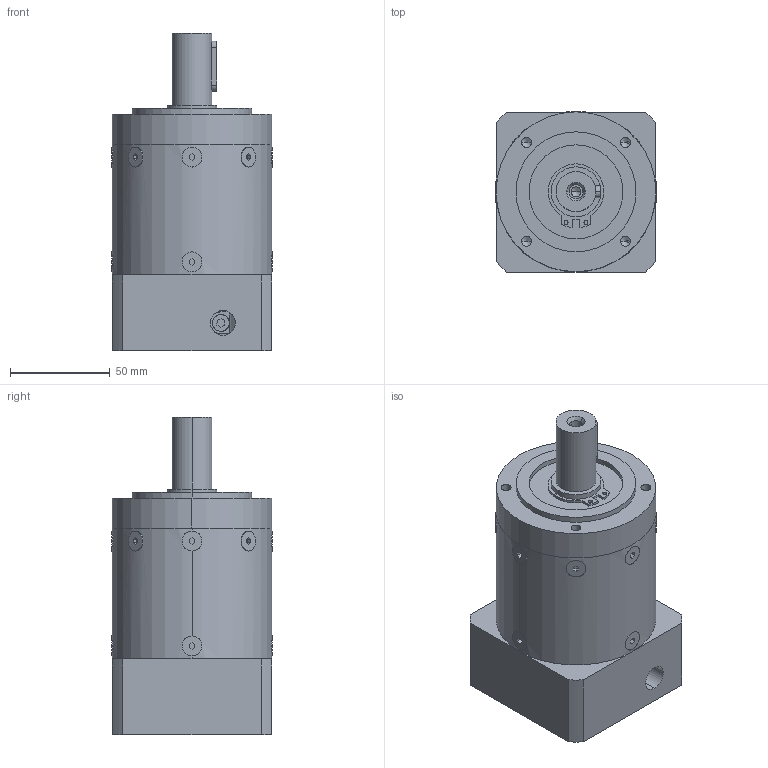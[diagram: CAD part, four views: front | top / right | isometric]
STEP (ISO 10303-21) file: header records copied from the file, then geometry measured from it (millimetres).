
FILE_DESCRIPTION (( 'STEP AP214' ), '1' );
FILE_NAME ('PRL80-L2 目录1.STEP', '2020-09-14T06:27:47', ( '微软用户' ), ( '微软中国' ), 'SwSTEP 2.0', 'SolidWorks 2014', '' );
FILE_SCHEMA (( 'AUTOMOTIVE_DESIGN' ));
Length unit declared in the file: millimetre
Products named in the file (15): PLE80 奻屳唳; PRL80-L2 Ŀ¼1; 粣創-6006 30x55x13; 邧埴瑩 6x6x25; PLE80 蟀諉啣-梓袧; 囀鞠褒蹟佪-M5℅20; PLE80 内齿圈-B版_二级内齿圈; PLE80 薊粣ん_D7-19 梓袧
Assembly tree (7 placements, depth 2):
  PLE80 奻屳唳
  PRL80-L2 Ŀ¼1
    PLE80 奻屳唳
    PLE80 薊粣ん_D7-19 梓袧
    PLE80 内齿圈-B版_二级内齿圈
    囀鞠褒蹟佪-M5℅20
    PLE80 蟀諉啣-梓袧
    邧埴瑩 6x6x25
    粣創-6006 30x55x13
  粣創-6006 30x55x13
  邧埴瑩 6x6x25
  PLE80 蟀諉啣-梓袧
Bounding box: 80.1 x 80.1 x 159 mm (x, y, z)
Volume: 583795.7 mm3; surface area: 112363.4 mm2
Topology: 7 solids, 7 shells, 535 faces, 1432 edges, 925 vertices
Faces by surface type: plane 199, cylinder 168, bspline 136, cone 32
Entity records: 28626 total; most frequent: CARTESIAN_POINT 9899, ORIENTED_EDGE 2812, DIRECTION 2302, EDGE_CURVE 1406, VERTEX_POINT 925, AXIS2_PLACEMENT_3D 896, EDGE_LOOP 631, UNCERTAINTY_MEASURE_WITH_UNIT 557
